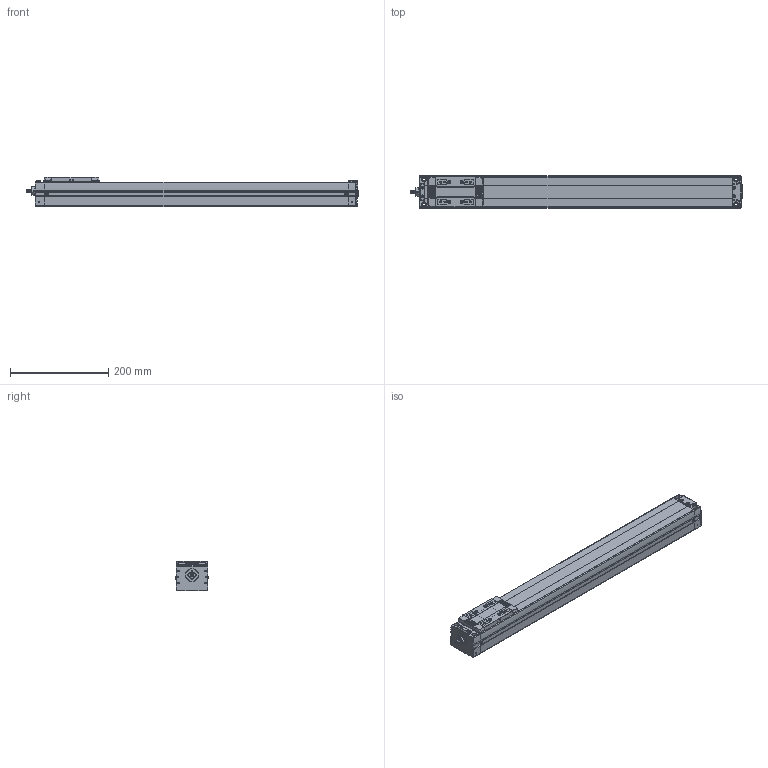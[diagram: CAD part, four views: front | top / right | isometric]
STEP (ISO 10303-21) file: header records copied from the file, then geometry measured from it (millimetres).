
FILE_DESCRIPTION(('STEP AP214'),'1');
FILE_NAME('Z:/Web/3D/SAN65/STP/SAN65ㅁㅁ-500.stp','2012-06-14T06:19:16',(' '),(' '),'Spatial InterOp 3D',' ',' ');
FILE_SCHEMA(('automotive_design'));
Length unit declared in the file: metre
Products named in the file (27): SAN65__-500; BODY-SAN65; REAR-SAN65; RRCV-SAN65; 스크루 : Round - M3.0 x 6.0; FRONT-SAN65; SHAFT-SAN65; RN8 x 0.75; SSFX-SAN65; SLIDE-SAN65; SLCV-SAN65; 스크루 : Countersunk - M3.0 x 6.0
Assembly tree (26 placements, depth 3):
  SAN65__-500
    BODY-SAN65
    REAR-SAN65
      REAR-SAN65
      RRCV-SAN65
      스크루 : Round - M3.0 x 6.0
      스크루 : Round - M3.0 x 6.0
      스크루 : Round - M3.0 x 6.0
      스크루 : Round - M3.0 x 6.0
      스크루 : Round - M3.0 x 6.0
      스크루 : Round - M3.0 x 6.0
    FRONT-SAN65
      FRONT-SAN65
      SHAFT-SAN65
      RN8 x 0.75
      SSFX-SAN65
      스크루 : Round - M3.0 x 6.0
      스크루 : Round - M3.0 x 6.0
      스크루 : Round - M3.0 x 6.0
      스크루 : Round - M3.0 x 6.0
    SLIDE-SAN65
      SLIDE-SAN65
      SLCV-SAN65
      스크루 : Countersunk - M3.0 x 6.0
      스크루 : Countersunk - M3.0 x 6.0
      스크루 : Countersunk - M3.0 x 6.0
      스크루 : Countersunk - M3.0 x 6.0
Bounding box: 674.65 x 67.13 x 60 mm (x, y, z)
Volume: 2102471.9 mm3; surface area: 235543.3 mm2
Topology: 23 solids, 23 shells, 1406 faces, 3636 edges, 2366 vertices
Faces by surface type: plane 843, cylinder 412, cone 85, bspline 26, sphere 22, torus 15, extrusion 3
Full cylindrical faces by diameter (mm): 0.571 x2, 0.706 x1, 1.727 x2, 2.132 x1, 2.2 x4, 2.5 x9, 2.528 x4, 3 x6, 3.121 x2, 3.3 x4, 3.4 x4, 3.5 x6, 4.2 x36, 4.849 x4, 5 x2, 5.5 x4, 5.987 x2, 6 x6, 7 x1, 8 x4, 9.5 x4, 13 x1, 15 x1, 19 x1
Entity records: 57465 total; most frequent: CARTESIAN_POINT 11763, DIRECTION 7081, ORIENTED_EDGE 6692, EDGE_CURVE 3346, AXIS2_PLACEMENT_3D 2406, VERTEX_POINT 2316, VECTOR 2269, LINE 2266
